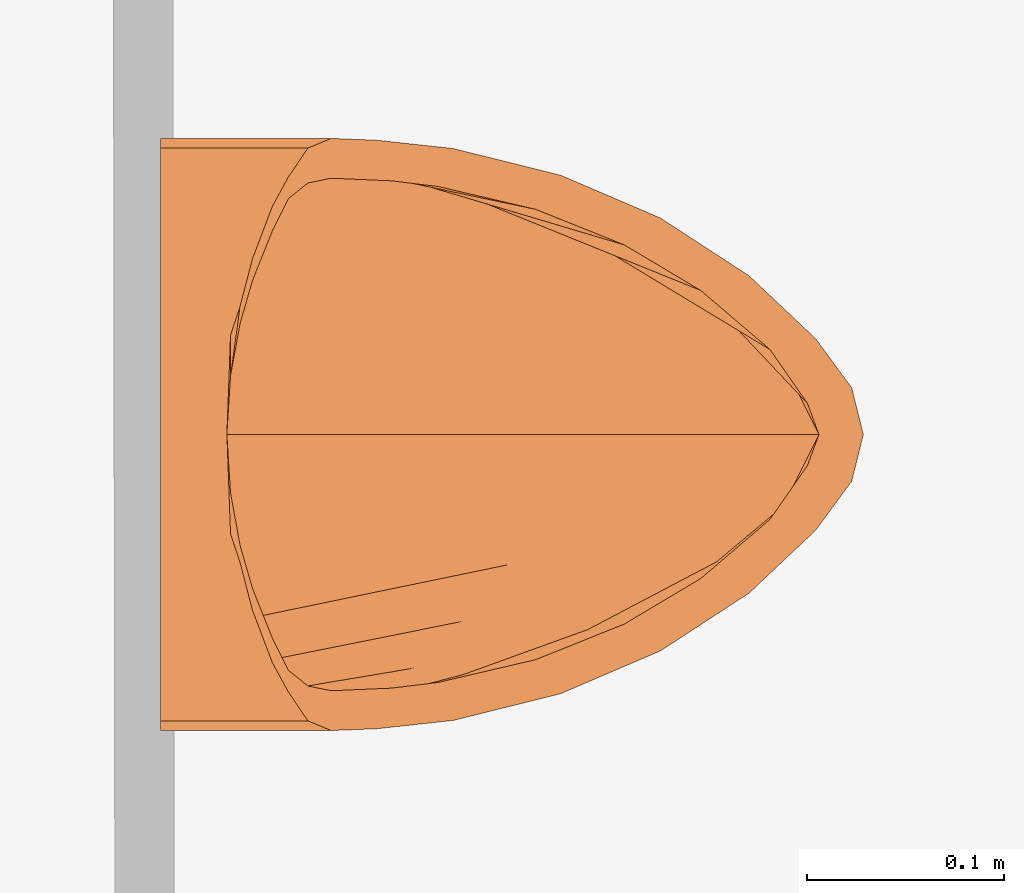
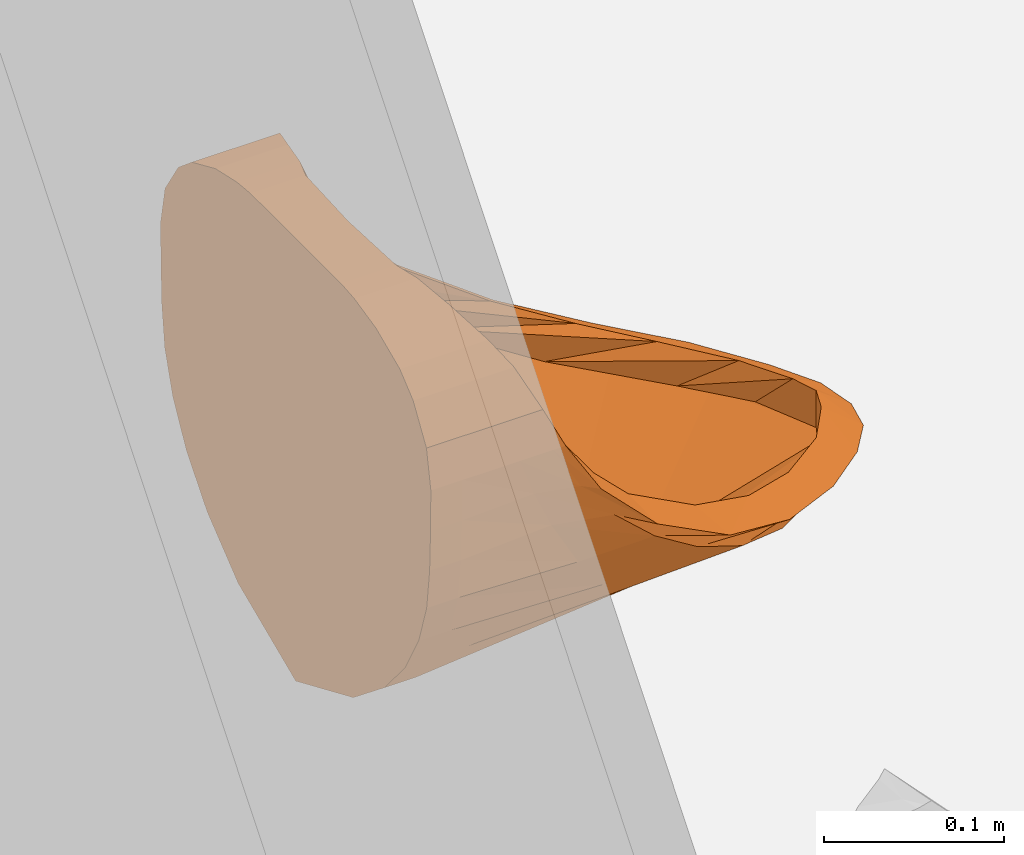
# One storey, part 155 of 158: 1 proxy.
"""IFC2X3 building model written with IfcOpenShell, lengths in metres."""

from ifc_helpers import new_model, entity, si_unit, converted_unit, derived_unit, money_unit, direction, frame, origin_with_axes, place, context, subcontext, project, spatial, open_shell, faceted_brep, surface_model, type_object, element, save


model = new_model("IFC2X3")

# Units and contexts
model_context = context("Model", 3, precision=1e-05, world=origin_with_axes(), true_north=direction((0.0, 1.0)))
body_context = subcontext(model_context, "Body", "Model", "MODEL_VIEW")
ifc_project = project(units=[si_unit("LENGTHUNIT", "METRE"), si_unit("AREAUNIT", "SQUARE_METRE"), si_unit("VOLUMEUNIT", "CUBIC_METRE"), converted_unit("PLANEANGLEUNIT", "DEGREE", entity("IfcPlaneAngleMeasure", 0.0174532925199), si_unit("PLANEANGLEUNIT", "RADIAN"), dimensions=[0, 0, 0, 0, 0, 0, 0]), money_unit("EUR"), converted_unit("TIMEUNIT", "Year", entity("IfcTimeMeasure", 31556926.0), si_unit("TIMEUNIT", "SECOND"), dimensions=[0, 0, 1, 0, 0, 0, 0]), si_unit("MASSUNIT", "GRAM", prefix="KILO"), si_unit("THERMODYNAMICTEMPERATUREUNIT", "DEGREE_CELSIUS"), si_unit("LUMINOUSINTENSITYUNIT", "LUMEN"), si_unit("ENERGYUNIT", "JOULE", prefix="MEGA"), derived_unit("THERMALCONDUCTANCEUNIT", [(si_unit("POWERUNIT", "WATT"), 1), (si_unit("LENGTHUNIT", "METRE"), -1), (si_unit("THERMODYNAMICTEMPERATUREUNIT", "KELVIN"), -1)]), derived_unit("SPECIFICHEATCAPACITYUNIT", [(si_unit("ENERGYUNIT", "JOULE"), 1), (si_unit("MASSUNIT", "GRAM", prefix="KILO"), -1), (si_unit("THERMODYNAMICTEMPERATUREUNIT", "KELVIN"), -1)]), derived_unit("MASSDENSITYUNIT", [(si_unit("MASSUNIT", "GRAM", prefix="KILO"), 1), (si_unit("VOLUMEUNIT", "CUBIC_METRE"), -1)])], contexts=[model_context])

# Site, building, storey
site_placement = place(None, origin_with_axes())
site = spatial("IfcSite", under=ifc_project, at=site_placement, Name="Gelände", CompositionType="ELEMENT")
building_placement = place(site_placement, origin_with_axes())
building = spatial("IfcBuilding", under=site, at=building_placement, Name="Gebäude", CompositionType="ELEMENT")
storey_placement = place(building_placement, origin_with_axes())
storey = spatial("IfcBuildingStorey", under=building, at=storey_placement, Name="ERDGESCHOSS", CompositionType="ELEMENT", Elevation=0.0)

# Proxy
building_element_proxy_type = type_object("IfcBuildingElementProxyType", Name="Urinal 1 25", PredefinedType="NOTDEFINED")
proxy_placement = place(storey_placement, frame((13.2959681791, 23.7703734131, -0.10276053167), z_axis=(0.0, 0.0, 1.0), x_axis=(0.0, 1.0, 0.0)))
element("IfcBuildingElementProxy", 1, at=proxy_placement, inside=storey, type_object=building_element_proxy_type, Name="Objekt-00219", context=body_context, shape_type="SurfaceModel", body=[
    faceted_brep([(0.0, 0.006718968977, 1.0), (-0.0503710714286, 0.006718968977, 0.999898), (-0.0503710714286, 0.0, 0.999898), (0.0, 0.0, 1.0), (0.0503710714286, 0.006718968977, 0.999898), (0.0650260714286, 0.006718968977, 0.998525), (0.0890367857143, 0.006718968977, 0.993198), (0.115533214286, 0.006718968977, 0.981535), (0.130329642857, 0.006718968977, 0.969181), (0.1451025, 0.006718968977, 0.945871), (0.15, 0.006718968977, 0.920148), (0.149671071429, 0.006718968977, 0.89263), (0.148683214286, 0.006718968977, 0.865111), (0.145370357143, 0.006718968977, 0.837593), (0.136527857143, 0.006718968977, 0.810074), (0.121330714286, 0.006718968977, 0.782556), (0.0982478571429, 0.006718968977, 0.755037), (0.0638796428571, 0.006718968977, 0.727519), (0.0, 0.006718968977, 0.7), (-0.0638796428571, 0.006718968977, 0.727519), (-0.0982478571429, 0.006718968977, 0.755037), (-0.121330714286, 0.006718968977, 0.782556), (-0.136527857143, 0.006718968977, 0.810074), (-0.145370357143, 0.006718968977, 0.837593), (-0.148683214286, 0.006718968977, 0.865111), (-0.149671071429, 0.006718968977, 0.89263), (-0.15, 0.006718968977, 0.920148), (-0.1451025, 0.006718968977, 0.945871), (-0.130329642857, 0.006718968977, 0.969181), (-0.115533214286, 0.006718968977, 0.981535), (-0.0890367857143, 0.006718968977, 0.993198), (-0.0650260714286, 0.006718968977, 0.998525), (-0.0650260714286, 0.0, 0.998525), (-0.0890367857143, 0.0, 0.993198), (-0.115533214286, 0.0, 0.981535), (-0.130329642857, 0.0, 0.969181), (-0.1451025, 0.0, 0.945871), (-0.15, 0.0, 0.920148), (-0.149671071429, 0.0, 0.89263), (-0.148683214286, 0.0, 0.865111), (-0.145370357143, 0.0, 0.837593), (-0.136527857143, 0.0, 0.810074), (-0.121330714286, 0.0, 0.782556), (-0.0982478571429, 0.0, 0.755037), (-0.0638796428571, 0.0, 0.727519), (0.0, 0.0, 0.7), (0.0638796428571, 0.0, 0.727519), (0.0982478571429, 0.0, 0.755037), (0.121330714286, 0.0, 0.782556), (0.136527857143, 0.0, 0.810074), (0.145370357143, 0.0, 0.837593), (0.148683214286, 0.0, 0.865111), (0.149671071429, 0.0, 0.89263), (0.15, 0.0, 0.920148), (0.1451025, 0.0, 0.945871), (0.130329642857, 0.0, 0.969181), (0.115533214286, 0.0, 0.981535), (0.0890367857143, 0.0, 0.993198), (0.0650260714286, 0.0, 0.998525), (0.0503710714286, 0.0, 0.999898)], [[[0, 1, 2, 3]], [[0, 4, 5, 6, 7, 8, 9, 10, 11, 12, 13, 14, 15, 16, 17, 18, 19, 20, 21, 22, 23, 24, 25, 26, 27, 28, 29, 30, 31, 1]], [[1, 31, 32, 2]], [[3, 2, 32, 33, 34, 35, 36, 37, 38, 39, 40, 41, 42, 43, 44, 45, 46, 47, 48, 49, 50, 51, 52, 53, 54, 55, 56, 57, 58, 59]], [[4, 0, 3, 59]], [[5, 4, 59, 58]], [[6, 5, 58, 57]], [[7, 6, 57, 56]], [[8, 7, 56, 55]], [[9, 8, 55, 54]], [[10, 9, 54, 53]], [[11, 10, 53, 52]], [[12, 11, 52, 51]], [[13, 12, 51, 50]], [[14, 13, 50, 49]], [[15, 14, 49, 48]], [[16, 15, 48, 47]], [[17, 16, 47, 46]], [[18, 17, 46, 45]], [[19, 18, 45, 44]], [[20, 19, 44, 43]], [[21, 20, 43, 42]], [[22, 21, 42, 41]], [[23, 22, 41, 40]], [[24, 23, 40, 39]], [[25, 24, 39, 38]], [[26, 25, 38, 37]], [[27, 26, 37, 36]], [[28, 27, 36, 35]], [[29, 28, 35, 34]], [[30, 29, 34, 33]], [[31, 30, 33, 32]]]),
    surface_model("IfcShellBasedSurfaceModel", [(0.0, 0.0, 1.0), (0.0, -0.013437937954, 1.0), (-0.0503710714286, -0.013437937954, 0.999898), (0.0503710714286, 0.0, 0.999898), (-0.0503710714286, -0.0202025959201, 0.999898), (-0.0503710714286, 0.0, 0.999898), (0.0503710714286, -0.013437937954, 0.999898), (0.0, -0.020156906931, 1.0), (-0.0650260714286, -0.0208193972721, 0.998525), (-0.0650260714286, -0.013437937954, 0.998525), (0.0650260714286, 0.0, 0.998525), (-0.0503710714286, -0.0258613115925, 0.999898), (-0.0650260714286, -0.0267320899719, 0.998525), (-0.0650260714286, 0.0, 0.998525), (0.0650260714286, -0.013437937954, 0.998525), (0.0503710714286, -0.0202025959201, 0.999898), (0.0, -0.0257914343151, 1.0), (-0.0890367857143, -0.0303267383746, 0.993198), (-0.0890367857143, -0.0231777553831, 0.993198), (-0.0890367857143, -0.013437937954, 0.993198), (0.0890367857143, 0.0, 0.993198), (-0.0503710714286, -0.0287168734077, 0.999898), (-0.0650260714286, -0.0335854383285, 0.998525), (-0.0890367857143, -0.0398448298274, 0.993198), (-0.0890367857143, 0.0, 0.993198), (0.0890367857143, -0.013437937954, 0.993198), (0.0650260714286, -0.0208193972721, 0.998525), (0.0503710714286, -0.0258613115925, 0.999898), (0.0, -0.026875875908, 1.0), (-0.115533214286, -0.049896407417, 0.981535), (-0.115533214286, -0.0378197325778, 0.981535), (-0.115533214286, -0.0281551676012, 0.981535), (-0.115533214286, -0.013437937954, 0.981535), (0.115533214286, 0.0, 0.981535), (-0.115533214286, 0.0, 0.981535), (0.115533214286, -0.013437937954, 0.981535), (0.0890367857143, -0.0231777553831, 0.993198), (0.0650260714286, -0.0267320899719, 0.998525), (0.0503710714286, -0.0287168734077, 0.999898), (-0.130329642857, -0.057955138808, 0.969181), (-0.130329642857, -0.0453758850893, 0.969181), (-0.130329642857, -0.0331540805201, 0.969181), (-0.130329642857, -0.013437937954, 0.969181), (0.130329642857, 0.0, 0.969181), (-0.130329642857, 0.0, 0.969181), (0.130329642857, -0.013437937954, 0.969181), (0.115533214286, -0.0281551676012, 0.981535), (0.0890367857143, -0.0303267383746, 0.993198), (0.0650260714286, -0.0335854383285, 0.998525), (-0.1451025, -0.0679153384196, 0.945871), (-0.1451025, -0.0586015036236, 0.945871), (-0.1451025, -0.0418323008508, 0.945871), (-0.1451025, -0.013437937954, 0.945871), (0.1451025, 0.0, 0.945871), (-0.1451025, 0.0, 0.945871), (0.1451025, -0.013437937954, 0.945871), (0.130329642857, -0.0331540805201, 0.969181), (0.115533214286, -0.0378197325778, 0.981535), (0.0890367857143, -0.0398448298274, 0.993198), (-0.15, -0.0797299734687, 0.920148), (-0.15, -0.0716913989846, 0.920148), (-0.15, -0.0502861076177, 0.920148), (-0.15, -0.013437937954, 0.920148), (0.15, 0.0, 0.920148), (-0.15, 0.0, 0.920148), (0.15, -0.013437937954, 0.920148), (0.1451025, -0.0418323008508, 0.945871), (0.130329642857, -0.0453758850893, 0.969181), (0.115533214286, -0.049896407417, 0.981535), (-0.149088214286, -0.102887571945, 0.882346), (-0.148938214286, -0.0898769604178, 0.888729), (-0.148493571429, -0.0601616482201, 0.893637), (-0.149671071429, -0.013437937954, 0.89263), (0.149671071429, 0.0, 0.89263), (-0.149671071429, 0.0, 0.89263), (0.149671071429, -0.013437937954, 0.89263), (0.15, -0.0502861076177, 0.920148), (0.1451025, -0.0586015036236, 0.945871), (0.130329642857, -0.057955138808, 0.969181), (-0.144867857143, -0.141579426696, 0.842424), (-0.146004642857, -0.113320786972, 0.859303), (-0.1458225, -0.0728967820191, 0.866246), (-0.148683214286, -0.013437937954, 0.865111), (0.148683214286, 0.0, 0.865111), (-0.148683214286, 0.0, 0.865111), (0.148683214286, -0.013437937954, 0.865111), (0.148493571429, -0.0601616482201, 0.893637), (0.15, -0.0716913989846, 0.920148), (0.1451025, -0.0679153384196, 0.945871), (-0.131359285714, -0.195910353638, 0.807653), (-0.1416, -0.141637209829, 0.832354), (-0.137941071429, -0.094670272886, 0.829001), (-0.145370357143, -0.013437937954, 0.837593), (0.145370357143, 0.0, 0.837593), (-0.145370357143, 0.0, 0.837593), (0.145370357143, -0.013437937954, 0.837593), (0.1458225, -0.0728967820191, 0.866246), (0.148938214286, -0.0898769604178, 0.888729), (0.15, -0.0797299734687, 0.920148), (-0.109682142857, -0.246523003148, 0.787417), (-0.133041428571, -0.174359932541, 0.808327), (-0.118344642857, -0.121788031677, 0.792232), (-0.136527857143, -0.013437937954, 0.810074), (0.136527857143, 0.0, 0.810074), (-0.136527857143, 0.0, 0.810074), (0.136527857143, -0.013437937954, 0.810074), (0.137941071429, -0.094670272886, 0.829001), (0.146004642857, -0.113320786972, 0.859303), (0.149088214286, -0.102887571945, 0.882346), (-0.0803528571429, -0.291497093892, 0.776444), (-0.1187925, -0.210950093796, 0.787618), (-0.09477, -0.145848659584, 0.76517), (-0.121330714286, -0.013437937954, 0.782556), (0.121330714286, 0.0, 0.782556), (-0.121330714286, 0.0, 0.782556), (0.121330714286, -0.013437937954, 0.782556), (0.118344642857, -0.121788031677, 0.792232), (0.1416, -0.141637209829, 0.832354), (0.144867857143, -0.141579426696, 0.842424), (-0.0486064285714, -0.325132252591, 0.768676), (-0.0942653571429, -0.250802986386, 0.770567), (-0.0659742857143, -0.169484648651, 0.742159), (-0.0982478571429, -0.013437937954, 0.755037), (0.0982478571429, 0.0, 0.755037), (-0.0982478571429, 0.0, 0.755037), (0.0982478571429, -0.013437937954, 0.755037), (0.09477, -0.145848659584, 0.76517), (0.133041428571, -0.174359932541, 0.808327), (0.131359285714, -0.195910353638, 0.807653), (-0.0237192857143, -0.343425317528, 0.765137), (-0.0589767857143, -0.293262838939, 0.757456), (-0.0335507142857, -0.19220417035, 0.724265), (-0.0638796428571, -0.013437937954, 0.727519), (0.0638796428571, 0.0, 0.727519), (-0.0638796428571, 0.0, 0.727519), (0.0638796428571, -0.013437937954, 0.727519), (0.0659742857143, -0.169484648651, 0.742159), (0.1187925, -0.210950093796, 0.787618), (0.109682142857, -0.246523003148, 0.787417), (0.0, -0.349386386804, 0.763229), (0.0, -0.337629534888, 0.748501), (0.0, -0.212733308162, 0.712313), (0.0, -0.013437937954, 0.7), (0.0, 0.0, 0.7), (0.0335507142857, -0.19220417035, 0.724265), (0.0942653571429, -0.250802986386, 0.770567), (0.0803528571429, -0.291497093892, 0.776444), (0.0237192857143, -0.343425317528, 0.765137), (0.0589767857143, -0.293262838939, 0.757456), (0.0486064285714, -0.325132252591, 0.768676)], [open_shell([[[0, 1, 2]], [[3, 1, 0]], [[1, 4, 2]], [[0, 2, 5]], [[3, 6, 1]], [[1, 7, 4]], [[2, 4, 8]], [[5, 2, 9]], [[10, 6, 3]], [[6, 7, 1]], [[7, 11, 4]], [[4, 12, 8]], [[2, 8, 9]], [[5, 9, 13]], [[10, 14, 6]], [[6, 15, 7]], [[7, 16, 11]], [[4, 11, 12]], [[8, 12, 17]], [[9, 8, 18]], [[13, 9, 19]], [[20, 14, 10]], [[14, 15, 6]], [[15, 16, 7]], [[16, 21, 11]], [[11, 22, 12]], [[12, 23, 17]], [[8, 17, 18]], [[9, 18, 19]], [[13, 19, 24]], [[20, 25, 14]], [[14, 26, 15]], [[15, 27, 16]], [[16, 28, 21]], [[11, 21, 22]], [[12, 22, 23]], [[17, 23, 29]], [[18, 17, 30]], [[19, 18, 31]], [[24, 19, 32]], [[33, 25, 20]], [[25, 26, 14]], [[26, 27, 15]], [[27, 28, 16]], [[17, 29, 30]], [[18, 30, 31]], [[19, 31, 32]], [[24, 32, 34]], [[33, 35, 25]], [[25, 36, 26]], [[26, 37, 27]], [[27, 38, 28]], [[30, 29, 39]], [[31, 30, 40]], [[32, 31, 41]], [[34, 32, 42]], [[43, 35, 33]], [[35, 36, 25]], [[36, 37, 26]], [[37, 38, 27]], [[30, 39, 40]], [[31, 40, 41]], [[32, 41, 42]], [[34, 42, 44]], [[43, 45, 35]], [[35, 46, 36]], [[36, 47, 37]], [[37, 48, 38]], [[40, 39, 49]], [[41, 40, 50]], [[42, 41, 51]], [[44, 42, 52]], [[53, 45, 43]], [[45, 46, 35]], [[46, 47, 36]], [[47, 48, 37]], [[40, 49, 50]], [[41, 50, 51]], [[42, 51, 52]], [[44, 52, 54]], [[53, 55, 45]], [[45, 56, 46]], [[46, 57, 47]], [[47, 58, 48]], [[50, 49, 59]], [[51, 50, 60]], [[52, 51, 61]], [[54, 52, 62]], [[63, 55, 53]], [[55, 56, 45]], [[56, 57, 46]], [[57, 58, 47]], [[50, 59, 60]], [[51, 60, 61]], [[52, 61, 62]], [[54, 62, 64]], [[63, 65, 55]], [[55, 66, 56]], [[56, 67, 57]], [[57, 68, 58]], [[60, 59, 69]], [[61, 60, 70]], [[62, 61, 71]], [[64, 62, 72]], [[73, 65, 63]], [[65, 66, 55]], [[66, 67, 56]], [[67, 68, 57]], [[60, 69, 70]], [[61, 70, 71]], [[62, 71, 72]], [[64, 72, 74]], [[73, 75, 65]], [[65, 76, 66]], [[66, 77, 67]], [[67, 78, 68]], [[70, 69, 79]], [[71, 70, 80]], [[72, 71, 81]], [[74, 72, 82]], [[83, 75, 73]], [[75, 76, 65]], [[76, 77, 66]], [[77, 78, 67]], [[70, 79, 80]], [[71, 80, 81]], [[72, 81, 82]], [[74, 82, 84]], [[83, 85, 75]], [[75, 86, 76]], [[76, 87, 77]], [[77, 88, 78]], [[80, 79, 89]], [[81, 80, 90]], [[82, 81, 91]], [[84, 82, 92]], [[93, 85, 83]], [[85, 86, 75]], [[86, 87, 76]], [[87, 88, 77]], [[80, 89, 90]], [[81, 90, 91]], [[82, 91, 92]], [[84, 92, 94]], [[93, 95, 85]], [[85, 96, 86]], [[86, 97, 87]], [[87, 98, 88]], [[90, 89, 99]], [[91, 90, 100]], [[92, 91, 101]], [[94, 92, 102]], [[103, 95, 93]], [[95, 96, 85]], [[96, 97, 86]], [[97, 98, 87]], [[90, 99, 100]], [[91, 100, 101]], [[92, 101, 102]], [[94, 102, 104]], [[103, 105, 95]], [[95, 106, 96]], [[96, 107, 97]], [[97, 108, 98]], [[100, 99, 109]], [[101, 100, 110]], [[102, 101, 111]], [[104, 102, 112]], [[113, 105, 103]], [[105, 106, 95]], [[106, 107, 96]], [[107, 108, 97]], [[100, 109, 110]], [[101, 110, 111]], [[102, 111, 112]], [[104, 112, 114]], [[113, 115, 105]], [[105, 116, 106]], [[106, 117, 107]], [[107, 118, 108]], [[110, 109, 119]], [[111, 110, 120]], [[112, 111, 121]], [[114, 112, 122]], [[123, 115, 113]], [[115, 116, 105]], [[116, 117, 106]], [[117, 118, 107]], [[110, 119, 120]], [[111, 120, 121]], [[112, 121, 122]], [[114, 122, 124]], [[123, 125, 115]], [[115, 126, 116]], [[116, 127, 117]], [[117, 128, 118]], [[120, 119, 129]], [[121, 120, 130]], [[122, 121, 131]], [[124, 122, 132]], [[133, 125, 123]], [[125, 126, 115]], [[126, 127, 116]], [[127, 128, 117]], [[120, 129, 130]], [[121, 130, 131]], [[122, 131, 132]], [[124, 132, 134]], [[133, 135, 125]], [[125, 136, 126]], [[126, 137, 127]], [[127, 138, 128]], [[130, 129, 139]], [[131, 130, 140]], [[132, 131, 141]], [[134, 132, 142]], [[143, 135, 133]], [[135, 136, 125]], [[136, 137, 126]], [[137, 138, 127]], [[130, 139, 140]], [[131, 140, 141]], [[132, 141, 142]], [[134, 142, 143]], [[143, 142, 135]], [[135, 144, 136]], [[136, 145, 137]], [[137, 146, 138]], [[140, 139, 147]], [[141, 140, 148]], [[142, 141, 144]], [[142, 144, 135]], [[144, 145, 136]], [[145, 146, 137]], [[140, 147, 148]], [[141, 148, 144]], [[144, 148, 145]], [[145, 149, 146]], [[148, 147, 149]], [[148, 149, 145]]])]),
    surface_model("IfcShellBasedSurfaceModel", [(0.0, -0.026875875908, 1.0), (0.0, -0.026875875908, 0.99), (-0.0295992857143, -0.0287168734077, 0.988966), (0.0503710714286, -0.0287168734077, 0.999898), (-0.0503710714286, -0.0287168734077, 0.999898), (0.0295992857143, -0.0287168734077, 0.988966), (-0.056325, -0.0335854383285, 0.98626), (0.0650260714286, -0.0335854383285, 0.998525), (-0.0650260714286, -0.0335854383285, 0.998525), (0.056325, -0.0335854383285, 0.98626), (-0.0779764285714, -0.0398448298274, 0.98082), (0.0890367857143, -0.0398448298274, 0.993198), (-0.0890367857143, -0.0398448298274, 0.993198), (0.0779764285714, -0.0398448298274, 0.98082), (-0.103178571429, -0.049896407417, 0.968491), (0.115533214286, -0.049896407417, 0.981535), (-0.115533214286, -0.049896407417, 0.981535), (0.103178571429, -0.049896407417, 0.968491), (-0.119395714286, -0.057955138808, 0.952746), (0.130329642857, -0.057955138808, 0.969181), (-0.130329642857, -0.057955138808, 0.969181), (0.119395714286, -0.057955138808, 0.952746), (-0.127429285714, -0.0679153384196, 0.936322), (0.1451025, -0.0679153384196, 0.945871), (-0.1451025, -0.0679153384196, 0.945871), (0.127429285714, -0.0679153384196, 0.936322), (-0.129833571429, -0.0797299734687, 0.920148), (0.15, -0.0797299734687, 0.920148), (-0.15, -0.0797299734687, 0.920148), (0.129833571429, -0.0797299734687, 0.920148), (-0.128517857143, -0.110160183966, 0.87807), (0.149088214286, -0.102887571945, 0.882346), (-0.149088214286, -0.102887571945, 0.882346), (0.128517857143, -0.110160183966, 0.87807), (-0.125659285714, -0.133762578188, 0.854025), (0.144867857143, -0.141579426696, 0.842424), (-0.144867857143, -0.141579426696, 0.842424), (0.125659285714, -0.133762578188, 0.854025), (-0.114079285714, -0.183325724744, 0.821972), (0.131359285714, -0.195910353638, 0.807653), (-0.131359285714, -0.195910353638, 0.807653), (0.114079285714, -0.183325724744, 0.821972), (-0.09609, -0.228160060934, 0.801839), (0.109682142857, -0.246523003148, 0.787417), (-0.109682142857, -0.246523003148, 0.787417), (0.09609, -0.228160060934, 0.801839), (-0.0730071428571, -0.26691776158, 0.790008), (0.0803528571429, -0.291497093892, 0.776444), (-0.0803528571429, -0.291497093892, 0.776444), (0.0730071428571, -0.26691776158, 0.790008), (-0.0429910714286, -0.302078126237, 0.783002), (0.0486064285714, -0.325132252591, 0.768676), (-0.0486064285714, -0.325132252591, 0.768676), (0.0429910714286, -0.302078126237, 0.783002), (-0.0157767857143, -0.320997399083, 0.78057), (0.0237192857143, -0.343425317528, 0.765137), (-0.0237192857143, -0.343425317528, 0.765137), (0.0157767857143, -0.320997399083, 0.78057), (0.0, -0.326849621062, 0.78), (0.0, -0.349386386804, 0.763229)], [open_shell([[[0, 1, 2]], [[3, 1, 0]], [[0, 2, 4]], [[3, 5, 1]], [[4, 2, 6]], [[7, 5, 3]], [[4, 6, 8]], [[7, 9, 5]], [[8, 6, 10]], [[11, 9, 7]], [[8, 10, 12]], [[11, 13, 9]], [[12, 10, 14]], [[15, 13, 11]], [[12, 14, 16]], [[15, 17, 13]], [[16, 14, 18]], [[19, 17, 15]], [[16, 18, 20]], [[19, 21, 17]], [[20, 18, 22]], [[23, 21, 19]], [[20, 22, 24]], [[23, 25, 21]], [[24, 22, 26]], [[27, 25, 23]], [[24, 26, 28]], [[27, 29, 25]], [[28, 26, 30]], [[31, 29, 27]], [[28, 30, 32]], [[31, 33, 29]], [[32, 30, 34]], [[35, 33, 31]], [[32, 34, 36]], [[35, 37, 33]], [[36, 34, 38]], [[39, 37, 35]], [[36, 38, 40]], [[39, 41, 37]], [[40, 38, 42]], [[43, 41, 39]], [[40, 42, 44]], [[43, 45, 41]], [[44, 42, 46]], [[47, 45, 43]], [[44, 46, 48]], [[47, 49, 45]], [[48, 46, 50]], [[51, 49, 47]], [[48, 50, 52]], [[51, 53, 49]], [[52, 50, 54]], [[55, 53, 51]], [[52, 54, 56]], [[55, 57, 53]], [[56, 54, 58]], [[59, 57, 55]], [[56, 58, 59]], [[59, 58, 57]]])]),
    surface_model("IfcShellBasedSurfaceModel", [(0.0, -0.026875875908, 0.99), (0.0, -0.0192632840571, 0.965651), (-0.0274382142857, -0.0223647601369, 0.964581), (0.0295992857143, -0.0287168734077, 0.988966), (-0.0295992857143, -0.0287168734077, 0.988966), (0.0274382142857, -0.0223647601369, 0.964581), (-0.0502746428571, -0.0250227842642, 0.962521), (0.056325, -0.0335854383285, 0.98626), (-0.056325, -0.0335854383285, 0.98626), (0.0502746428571, -0.0250227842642, 0.962521), (-0.0711675, -0.0268436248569, 0.959712), (0.0779764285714, -0.0398448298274, 0.98082), (-0.0779764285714, -0.0398448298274, 0.98082), (0.0711675, -0.0268436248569, 0.959712), (-0.0919746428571, -0.0296830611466, 0.954245), (0.103178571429, -0.049896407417, 0.968491), (-0.103178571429, -0.049896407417, 0.968491), (0.0919746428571, -0.0296830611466, 0.954245), (-0.111946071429, -0.0334013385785, 0.945674), (0.119395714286, -0.057955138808, 0.952746), (-0.119395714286, -0.057955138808, 0.952746), (0.111946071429, -0.0334013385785, 0.945674), (-0.123648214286, -0.0372405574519, 0.937494), (0.127429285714, -0.0679153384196, 0.936322), (-0.127429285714, -0.0679153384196, 0.936322), (0.123648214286, -0.0372405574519, 0.937494), (-0.136245, -0.0432083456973, 0.920148), (0.129833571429, -0.0797299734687, 0.920148), (-0.129833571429, -0.0797299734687, 0.920148), (0.136245, -0.0432083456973, 0.920148), (-0.136804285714, -0.059426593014, 0.892365), (0.128517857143, -0.110160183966, 0.87807), (-0.128517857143, -0.110160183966, 0.87807), (0.136804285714, -0.059426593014, 0.892365), (-0.135535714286, -0.0813707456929, 0.864684), (0.125659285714, -0.133762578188, 0.854025), (-0.125659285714, -0.133762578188, 0.854025), (0.135535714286, -0.0813707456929, 0.864684), (-0.131289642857, -0.10993173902, 0.837549), (0.114079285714, -0.183325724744, 0.821972), (-0.114079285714, -0.183325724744, 0.821972), (0.131289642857, -0.10993173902, 0.837549), (-0.121640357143, -0.146642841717, 0.811391), (0.09609, -0.228160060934, 0.801839), (-0.09609, -0.228160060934, 0.801839), (0.121640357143, -0.146642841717, 0.811391), (-0.0988671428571, -0.209681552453, 0.780769), (0.0730071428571, -0.26691776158, 0.790008), (-0.0730071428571, -0.26691776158, 0.790008), (0.0988671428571, -0.209681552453, 0.780769), (-0.0645653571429, -0.274924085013, 0.762219), (0.0429910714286, -0.302078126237, 0.783002), (-0.0429910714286, -0.302078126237, 0.783002), (0.0645653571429, -0.274924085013, 0.762219), (-0.0362764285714, -0.308747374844, 0.756815), (0.0157767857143, -0.320997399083, 0.78057), (-0.0157767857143, -0.320997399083, 0.78057), (0.0362764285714, -0.308747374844, 0.756815), (0.0, -0.326849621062, 0.755), (0.0, -0.326849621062, 0.78)], [open_shell([[[0, 1, 2]], [[3, 1, 0]], [[0, 2, 4]], [[3, 5, 1]], [[4, 2, 6]], [[7, 5, 3]], [[4, 6, 8]], [[7, 9, 5]], [[8, 6, 10]], [[11, 9, 7]], [[8, 10, 12]], [[11, 13, 9]], [[12, 10, 14]], [[15, 13, 11]], [[12, 14, 16]], [[15, 17, 13]], [[16, 14, 18]], [[19, 17, 15]], [[16, 18, 20]], [[19, 21, 17]], [[20, 18, 22]], [[23, 21, 19]], [[20, 22, 24]], [[23, 25, 21]], [[24, 22, 26]], [[27, 25, 23]], [[24, 26, 28]], [[27, 29, 25]], [[28, 26, 30]], [[31, 29, 27]], [[28, 30, 32]], [[31, 33, 29]], [[32, 30, 34]], [[35, 33, 31]], [[32, 34, 36]], [[35, 37, 33]], [[36, 34, 38]], [[39, 37, 35]], [[36, 38, 40]], [[39, 41, 37]], [[40, 38, 42]], [[43, 41, 39]], [[40, 42, 44]], [[43, 45, 41]], [[44, 42, 46]], [[47, 45, 43]], [[44, 46, 48]], [[47, 49, 45]], [[48, 46, 50]], [[51, 49, 47]], [[48, 50, 52]], [[51, 53, 49]], [[52, 50, 54]], [[55, 53, 51]], [[52, 54, 56]], [[55, 57, 53]], [[56, 54, 58]], [[59, 57, 55]], [[56, 58, 59]], [[59, 58, 57]]])]),
])

save(model, "model.ifc")
